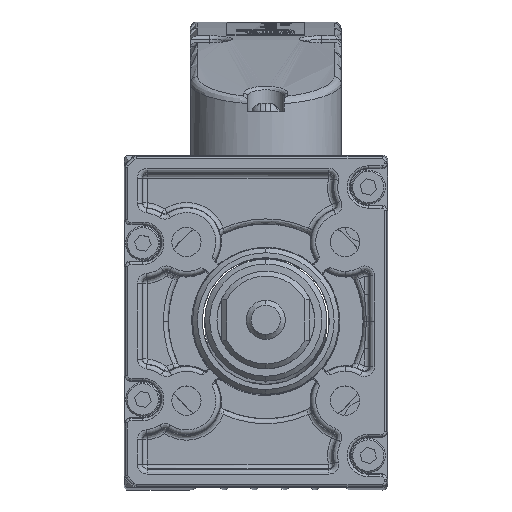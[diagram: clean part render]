
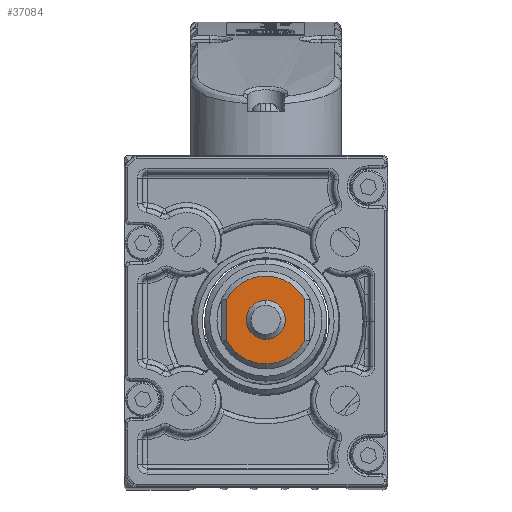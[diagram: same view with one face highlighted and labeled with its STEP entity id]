
A CAD part, top view. The second image highlights one B-rep face of the part: STEP entity #37084.
In plain terms, the highlighted planar face has unit normal (0, 0, 1) as drawn and (0, 0, -1) by its records, which use the part's own axes.
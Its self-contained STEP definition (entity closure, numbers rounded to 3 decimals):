
#6510 = CARTESIAN_POINT ( 'NONE',  ( 0., 0., -597. ) ) ;
#6511 = DIRECTION ( 'NONE',  ( 0., 0., -1. ) ) ;
#6512 = DIRECTION ( 'NONE',  ( -1., 0., 0. ) ) ;
#6826 = CARTESIAN_POINT ( 'NONE',  ( 0., 0., -597. ) ) ;
#6827 = DIRECTION ( 'NONE',  ( 0., 0., 1. ) ) ;
#6828 = DIRECTION ( 'NONE',  ( 1., 0., 0. ) ) ;
#7644 = AXIS2_PLACEMENT_3D ( 'NONE', #6826, #6827, #6828 ) ;
#7657 = CIRCLE ( 'NONE', #7644, 4. ) ;
#7925 = AXIS2_PLACEMENT_3D ( 'NONE', #14204, #14206, #14209 ) ;
#7928 = CIRCLE ( 'NONE', #7925, 4. ) ;
#7929 = AXIS2_PLACEMENT_3D ( 'NONE', #14187, #14190, #14192 ) ;
#7931 = VECTOR ( 'NONE', #14196, 1000. ) ;
#7933 = CIRCLE ( 'NONE', #7929, 9. ) ;
#7935 = AXIS2_PLACEMENT_3D ( 'NONE', #14174, #14176, #14178 ) ;
#7938 = CIRCLE ( 'NONE', #7935, 9. ) ;
#7942 = VECTOR ( 'NONE', #14181, 1000. ) ;
#8347 = CIRCLE ( 'NONE', #8355, 9. ) ;
#8355 = AXIS2_PLACEMENT_3D ( 'NONE', #6510, #6511, #6512 ) ;
#9919 = ORIENTED_EDGE ( 'NONE', *, *, #45889, .T. ) ;
#9920 = ORIENTED_EDGE ( 'NONE', *, *, #45890, .T. ) ;
#9921 = ORIENTED_EDGE ( 'NONE', *, *, #45888, .T. ) ;
#9923 = ORIENTED_EDGE ( 'NONE', *, *, #46000, .T. ) ;
#9943 = ORIENTED_EDGE ( 'NONE', *, *, #45891, .T. ) ;
#10372 = ORIENTED_EDGE ( 'NONE', *, *, #46105, .T. ) ;
#10388 = ORIENTED_EDGE ( 'NONE', *, *, #45892, .T. ) ;
#14151 = CARTESIAN_POINT ( 'NONE',  ( 4.359, 8., -597. ) ) ;
#14168 = CARTESIAN_POINT ( 'NONE',  ( -4.359, -8., -597. ) ) ;
#14170 = LINE ( 'NONE', #14168, #7931 ) ;
#14172 = LINE ( 'NONE', #14151, #7942 ) ;
#14174 = CARTESIAN_POINT ( 'NONE',  ( 0., 0., -597. ) ) ;
#14176 = DIRECTION ( 'NONE',  ( 0., 0., -1. ) ) ;
#14178 = DIRECTION ( 'NONE',  ( -1., 0., 0. ) ) ;
#14181 = DIRECTION ( 'NONE',  ( 1., 0., 0. ) ) ;
#14187 = CARTESIAN_POINT ( 'NONE',  ( 0., 0., -597. ) ) ;
#14190 = DIRECTION ( 'NONE',  ( 0., 0., -1. ) ) ;
#14192 = DIRECTION ( 'NONE',  ( -1., 0., 0. ) ) ;
#14196 = DIRECTION ( 'NONE',  ( -1., 0., 0. ) ) ;
#14204 = CARTESIAN_POINT ( 'NONE',  ( 0., 0., -597. ) ) ;
#14206 = DIRECTION ( 'NONE',  ( 0., 0., 1. ) ) ;
#14209 = DIRECTION ( 'NONE',  ( 1., 0., 0. ) ) ;
#28289 = CARTESIAN_POINT ( 'NONE',  ( 9., 0., -597. ) ) ;
#28324 = CARTESIAN_POINT ( 'NONE',  ( 4.123, 8., -597. ) ) ;
#28325 = CARTESIAN_POINT ( 'NONE',  ( 4., 0., -597. ) ) ;
#28333 = CARTESIAN_POINT ( 'NONE',  ( -4., 0., -597. ) ) ;
#28336 = CARTESIAN_POINT ( 'NONE',  ( 4.123, -8., -597. ) ) ;
#34582 = EDGE_LOOP ( 'NONE', ( #9921, #9919, #9920, #9923, #9943 ) ) ;
#34594 = EDGE_LOOP ( 'NONE', ( #10372, #10388 ) ) ;
#37084 = ADVANCED_FACE ( 'NONE', ( #74423, #74424 ), #74425, .T. ) ;
#39689 = VERTEX_POINT ( 'NONE', #28289 ) ;
#39724 = VERTEX_POINT ( 'NONE', #28324 ) ;
#39725 = VERTEX_POINT ( 'NONE', #28325 ) ;
#39733 = VERTEX_POINT ( 'NONE', #28333 ) ;
#39736 = VERTEX_POINT ( 'NONE', #28336 ) ;
#45888 = EDGE_CURVE ( 'NONE', #57342, #57330, #7938, .T. ) ;
#45889 = EDGE_CURVE ( 'NONE', #57330, #39724, #14172, .T. ) ;
#45890 = EDGE_CURVE ( 'NONE', #39724, #39689, #7933, .T. ) ;
#45891 = EDGE_CURVE ( 'NONE', #39736, #57342, #14170, .T. ) ;
#45892 = EDGE_CURVE ( 'NONE', #39733, #39725, #7928, .T. ) ;
#46000 = EDGE_CURVE ( 'NONE', #39689, #39736, #8347, .T. ) ;
#46105 = EDGE_CURVE ( 'NONE', #39725, #39733, #7657, .T. ) ;
#50814 = AXIS2_PLACEMENT_3D ( 'NONE', #74419, #74427, #74428 ) ;
#56913 = CARTESIAN_POINT ( 'NONE',  ( -4.123, 8., -597. ) ) ;
#56925 = CARTESIAN_POINT ( 'NONE',  ( -4.123, -8., -597. ) ) ;
#57330 = VERTEX_POINT ( 'NONE', #56913 ) ;
#57342 = VERTEX_POINT ( 'NONE', #56925 ) ;
#74419 = CARTESIAN_POINT ( 'NONE',  ( 10., 0., -597. ) ) ;
#74423 = FACE_OUTER_BOUND ( 'NONE', #34582, .T. ) ;
#74424 = FACE_BOUND ( 'NONE', #34594, .T. ) ;
#74425 = PLANE ( 'NONE',  #50814 ) ;
#74427 = DIRECTION ( 'NONE',  ( 0., 0., -1. ) ) ;
#74428 = DIRECTION ( 'NONE',  ( -1., 0., 0. ) ) ;
